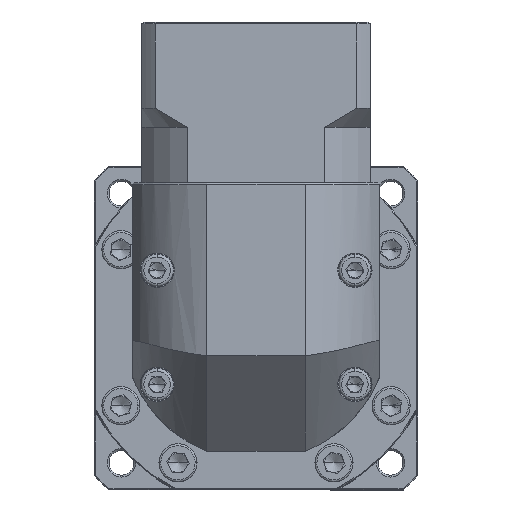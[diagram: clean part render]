
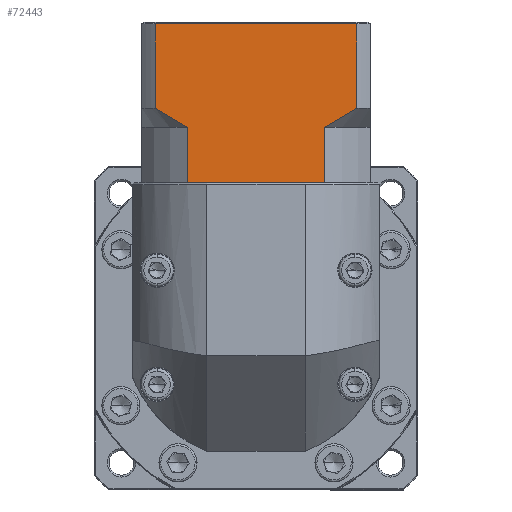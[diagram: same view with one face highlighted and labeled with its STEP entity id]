
A CAD part, top view. The second image highlights one B-rep face of the part: STEP entity #72443.
In plain terms, the highlighted planar face has unit normal (0, 0, 1).
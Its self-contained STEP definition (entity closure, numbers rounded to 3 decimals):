
#52 = LINE ( 'NONE', #16940, #120039 ) ;
#320 = EDGE_CURVE ( 'NONE', #87032, #20309, #56176, .T. ) ;
#1205 = DIRECTION ( 'NONE',  ( 0., 0., -1. ) ) ;
#2522 = PLANE ( 'NONE',  #101457 ) ;
#2568 = ORIENTED_EDGE ( 'NONE', *, *, #320, .T. ) ;
#2840 = LINE ( 'NONE', #101770, #28097 ) ;
#3395 = CARTESIAN_POINT ( 'NONE',  ( -57.771, 89.579, 45.955 ) ) ;
#4647 = CARTESIAN_POINT ( 'NONE',  ( -53.586, 92.127, 45.955 ) ) ;
#5341 = VECTOR ( 'NONE', #89501, 1000. ) ;
#5640 = EDGE_CURVE ( 'NONE', #82066, #20309, #93507, .T. ) ;
#6144 = CARTESIAN_POINT ( 'NONE',  ( -108.681, 73.529, 45.955 ) ) ;
#6196 = CARTESIAN_POINT ( 'NONE',  ( -96.708, 88.029, 45.955 ) ) ;
#6240 = CARTESIAN_POINT ( 'NONE',  ( -96.708, 88.029, 45.955 ) ) ;
#7609 = VECTOR ( 'NONE', #108508, 1000. ) ;
#12622 = DIRECTION ( 'NONE',  ( 1., 0., 0. ) ) ;
#12807 = ORIENTED_EDGE ( 'NONE', *, *, #19572, .T. ) ;
#13862 = VERTEX_POINT ( 'NONE', #116487 ) ;
#14015 = EDGE_CURVE ( 'NONE', #13862, #87032, #121279, .T. ) ;
#14410 = CARTESIAN_POINT ( 'NONE',  ( -52.223, 93.029, 45.955 ) ) ;
#15952 = EDGE_LOOP ( 'NONE', ( #103990, #117792, #36637, #109659, #63019, #12807, #28070, #2568, #119012, #39209 ) ) ;
#16940 = CARTESIAN_POINT ( 'NONE',  ( -96.708, 88.029, 45.955 ) ) ;
#17628 = CARTESIAN_POINT ( 'NONE',  ( -52.223, 93.029, 45.955 ) ) ;
#19572 = EDGE_CURVE ( 'NONE', #24457, #13862, #2840, .T. ) ;
#19600 = CARTESIAN_POINT ( 'NONE',  ( -105.138, 115.229, 45.955 ) ) ;
#20309 = VERTEX_POINT ( 'NONE', #73661 ) ;
#24457 = VERTEX_POINT ( 'NONE', #70889 ) ;
#26926 = CARTESIAN_POINT ( 'NONE',  ( -102.4, 91.256, 45.955 ) ) ;
#28070 = ORIENTED_EDGE ( 'NONE', *, *, #14015, .T. ) ;
#28097 = VECTOR ( 'NONE', #100434, 1000. ) ;
#29656 = CARTESIAN_POINT ( 'NONE',  ( -52.223, 115.229, 45.955 ) ) ;
#29691 = CARTESIAN_POINT ( 'NONE',  ( -60.653, 88.029, 45.955 ) ) ;
#30084 = CARTESIAN_POINT ( 'NONE',  ( -52.223, 88.029, 45.955 ) ) ;
#32918 = VERTEX_POINT ( 'NONE', #17628 ) ;
#35061 = CARTESIAN_POINT ( 'NONE',  ( -105.138, 93.029, 45.955 ) ) ;
#36625 = CARTESIAN_POINT ( 'NONE',  ( -99.592, 89.58, 45.955 ) ) ;
#36637 = ORIENTED_EDGE ( 'NONE', *, *, #54114, .F. ) ;
#37363 = VECTOR ( 'NONE', #120143, 1000. ) ;
#39209 = ORIENTED_EDGE ( 'NONE', *, *, #72667, .T. ) ;
#43071 = DIRECTION ( 'NONE',  ( 0., 1., 0. ) ) ;
#46860 = B_SPLINE_CURVE_WITH_KNOTS ( 'NONE', 3,
 ( #64211, #125080, #3395, #125930, #4647, #14410 ),
 .UNSPECIFIED., .F., .F.,
 ( 4, 2, 4 ),
 ( 0.1, 0.104, 0.109 ),
 .UNSPECIFIED. ) ;
#50711 = CARTESIAN_POINT ( 'NONE',  ( -105.138, 88.029, 45.955 ) ) ;
#52909 = B_SPLINE_CURVE_WITH_KNOTS ( 'NONE', 3,
 ( #64920, #127068, #26926, #36625, #66653, #6196 ),
 .UNSPECIFIED., .F., .F.,
 ( 4, 2, 4 ),
 ( 0.052, 0.057, 0.062 ),
 .UNSPECIFIED. ) ;
#54114 = EDGE_CURVE ( 'NONE', #111547, #103184, #58969, .T. ) ;
#56176 = LINE ( 'NONE', #82669, #72020 ) ;
#58969 = LINE ( 'NONE', #50711, #5341 ) ;
#60257 = CARTESIAN_POINT ( 'NONE',  ( -61.644, 73.529, 45.955 ) ) ;
#60527 = CARTESIAN_POINT ( 'NONE',  ( -108.681, 115.229, 45.955 ) ) ;
#63019 = ORIENTED_EDGE ( 'NONE', *, *, #97160, .F. ) ;
#63514 = VECTOR ( 'NONE', #100825, 1000. ) ;
#64211 = CARTESIAN_POINT ( 'NONE',  ( -60.653, 88.029, 45.955 ) ) ;
#64920 = CARTESIAN_POINT ( 'NONE',  ( -105.138, 93.029, 45.955 ) ) ;
#66653 = CARTESIAN_POINT ( 'NONE',  ( -98.16, 88.776, 45.955 ) ) ;
#67636 = DIRECTION ( 'NONE',  ( 0., 1., 0. ) ) ;
#70467 = LINE ( 'NONE', #60527, #81691 ) ;
#70889 = CARTESIAN_POINT ( 'NONE',  ( -96.708, 73.529, 45.955 ) ) ;
#72020 = VECTOR ( 'NONE', #12622, 1000. ) ;
#72443 = ADVANCED_FACE ( 'NONE', ( #104056 ), #2522, .F. ) ;
#72667 = EDGE_CURVE ( 'NONE', #82066, #32918, #46860, .T. ) ;
#73661 = CARTESIAN_POINT ( 'NONE',  ( -60.653, 73.529, 45.955 ) ) ;
#81691 = VECTOR ( 'NONE', #109570, 1000. ) ;
#82066 = VERTEX_POINT ( 'NONE', #94660 ) ;
#82669 = CARTESIAN_POINT ( 'NONE',  ( -108.681, 73.529, 45.955 ) ) ;
#82725 = EDGE_CURVE ( 'NONE', #111547, #113803, #52909, .T. ) ;
#83160 = CARTESIAN_POINT ( 'NONE',  ( -108.681, 115.729, 45.955 ) ) ;
#83403 = VERTEX_POINT ( 'NONE', #29656 ) ;
#86328 = LINE ( 'NONE', #30084, #37363 ) ;
#87032 = VERTEX_POINT ( 'NONE', #60257 ) ;
#89501 = DIRECTION ( 'NONE',  ( 0., 1., 0. ) ) ;
#93507 = LINE ( 'NONE', #29691, #63514 ) ;
#94660 = CARTESIAN_POINT ( 'NONE',  ( -60.653, 88.029, 45.955 ) ) ;
#97160 = EDGE_CURVE ( 'NONE', #24457, #113803, #52, .T. ) ;
#100434 = DIRECTION ( 'NONE',  ( 1., 0., 0. ) ) ;
#100825 = DIRECTION ( 'NONE',  ( 0., -1., 0. ) ) ;
#101457 = AXIS2_PLACEMENT_3D ( 'NONE', #83160, #1205, #43071 ) ;
#101770 = CARTESIAN_POINT ( 'NONE',  ( -108.681, 73.529, 45.955 ) ) ;
#103184 = VERTEX_POINT ( 'NONE', #19600 ) ;
#103990 = ORIENTED_EDGE ( 'NONE', *, *, #120904, .F. ) ;
#104056 = FACE_OUTER_BOUND ( 'NONE', #15952, .T. ) ;
#108508 = DIRECTION ( 'NONE',  ( 1., 0., 0. ) ) ;
#109570 = DIRECTION ( 'NONE',  ( -1., 0., 0. ) ) ;
#109659 = ORIENTED_EDGE ( 'NONE', *, *, #82725, .T. ) ;
#111547 = VERTEX_POINT ( 'NONE', #35061 ) ;
#113803 = VERTEX_POINT ( 'NONE', #6240 ) ;
#116487 = CARTESIAN_POINT ( 'NONE',  ( -95.717, 73.529, 45.955 ) ) ;
#117792 = ORIENTED_EDGE ( 'NONE', *, *, #120808, .T. ) ;
#119012 = ORIENTED_EDGE ( 'NONE', *, *, #5640, .F. ) ;
#120039 = VECTOR ( 'NONE', #67636, 1000. ) ;
#120143 = DIRECTION ( 'NONE',  ( 0., -1., 0. ) ) ;
#120808 = EDGE_CURVE ( 'NONE', #83403, #103184, #70467, .T. ) ;
#120904 = EDGE_CURVE ( 'NONE', #83403, #32918, #86328, .T. ) ;
#121279 = LINE ( 'NONE', #6144, #7609 ) ;
#125080 = CARTESIAN_POINT ( 'NONE',  ( -59.196, 88.779, 45.955 ) ) ;
#125930 = CARTESIAN_POINT ( 'NONE',  ( -54.966, 91.253, 45.955 ) ) ;
#127068 = CARTESIAN_POINT ( 'NONE',  ( -103.778, 92.129, 45.955 ) ) ;
